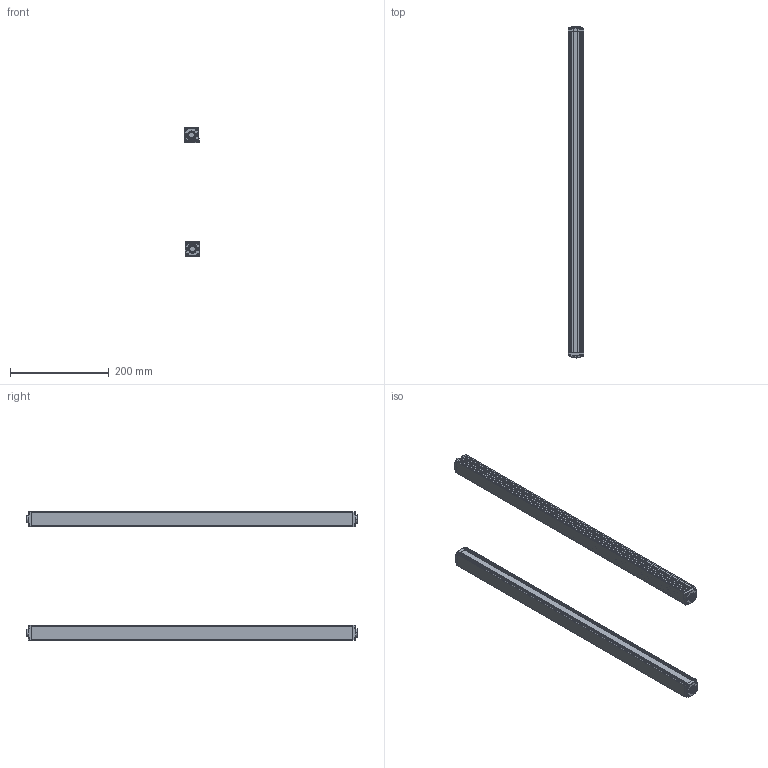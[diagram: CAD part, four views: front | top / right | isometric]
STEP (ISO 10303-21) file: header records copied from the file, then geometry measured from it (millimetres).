
FILE_DESCRIPTION (( 'STEP AP203' ), '1' );
FILE_NAME ('ZDA3220-650.STEP', '2022-10-10T09:09:13', ( 'Windows 蚚誧' ), ( 'Organization' ), 'SwSTEP 2.0', 'SolidWorks 2020', '' );
FILE_SCHEMA (( 'CONFIG_CONTROL_DESIGN' ));
Length unit declared in the file: millimetre
Products named in the file (5): ZDA3220-650; 錨璃1; 錨璃8; 錨璃8 - 萵掛 (2); 錨璃10
Assembly tree (8 placements, depth 2):
  ZDA3220-650
    錨璃1  x2
    錨璃8  x2
    錨璃8 - 萵掛 (2)  x2
    錨璃10  x2
Bounding box: 32.36 x 671.4 x 260.35 mm (x, y, z)
Volume: 416585.5 mm3; surface area: 441745.3 mm2
Topology: 8 solids, 8 shells, 1032 faces, 2690 edges, 1668 vertices
Faces by surface type: plane 464, cylinder 310, cone 120, bspline 58, torus 48, sphere 32
Entity records: 17901 total; most frequent: CARTESIAN_POINT 4731, ORIENTED_EDGE 2666, DIRECTION 2616, EDGE_CURVE 1333, AXIS2_PLACEMENT_3D 894, VERTEX_POINT 834, LINE 828, VECTOR 828
